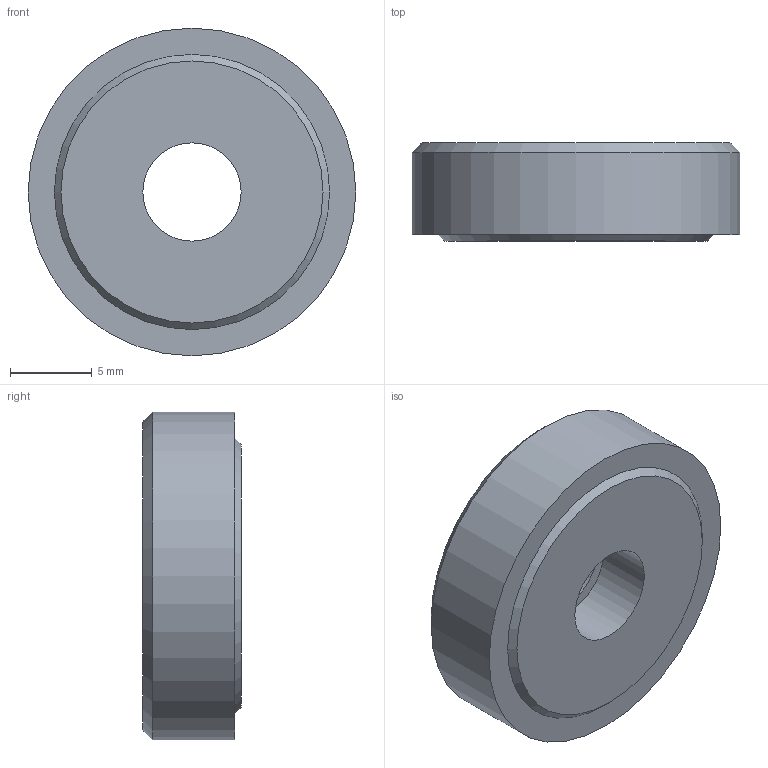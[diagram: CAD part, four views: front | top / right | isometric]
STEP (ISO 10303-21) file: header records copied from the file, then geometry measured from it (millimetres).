
FILE_DESCRIPTION( ( 'STEP AP203' ), '1' );
FILE_NAME( 'C:/Temp/Ganter_Step_05_03_2020/data/3_2/gn_6342/gn_6342_ni/Stainless Steel Washer with axial friction bearing GN 6342-NI-20-6.stp', '2020-03-13T05:36:55', ( 'License CC BY-ND 4.0' ), ( 'CADENAS' ), ' ', 'PARTsolutions', ' ' );
FILE_SCHEMA( ( 'CONFIG_CONTROL_DESIGN' ) );
Length unit declared in the file: millimetre
Products named in the file (1): _Stainless Steel Washer with axial friction bearing GN 6342-NI-20-6
Bounding box: 20 x 6 x 20 mm (x, y, z)
Volume: 1637.9 mm3; surface area: 1129.5 mm2
Topology: 1 solids, 1 shells, 11 faces, 17 edges, 11 vertices
Faces by surface type: plane 5, cylinder 4, cone 2
Full cylindrical faces by diameter (mm): 6 x2, 10 x1, 20 x1
Entity records: 272 total; most frequent: DIRECTION 46, CARTESIAN_POINT 34, AXIS2_PLACEMENT_3D 23, EDGE_LOOP 22, ORIENTED_EDGE 22, FACE_OUTER_BOUND 15, ADVANCED_FACE 11, EDGE_CURVE 11
